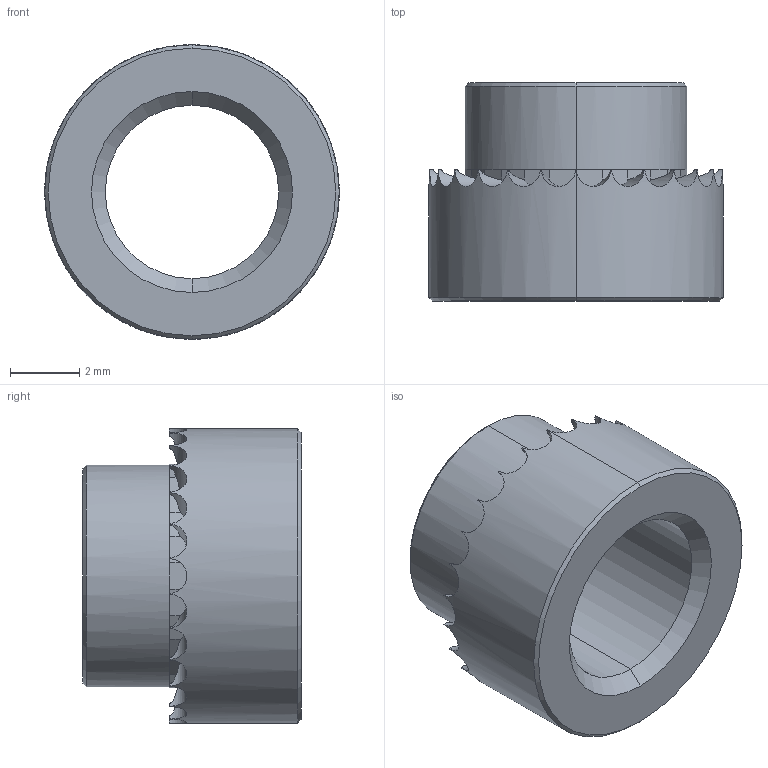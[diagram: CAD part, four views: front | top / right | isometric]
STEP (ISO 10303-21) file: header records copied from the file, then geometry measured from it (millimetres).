
FILE_DESCRIPTION (( 'STEP AP203' ), '1' );
FILE_NAME ('P0829.050-14G-ZP.step', '2019-03-21T22:17:20', ( '' ), ( '' ), 'SwSTEP 2.0', 'SolidWorks 2017', '' );
FILE_SCHEMA (( 'CONFIG_CONTROL_DESIGN' ));
Length unit declared in the file: millimetre
Products named in the file (1): P0829.050-14G-ZP
Bounding box: 8.5 x 6.3 x 8.5 mm (x, y, z)
Volume: 159.3 mm3; surface area: 321.1 mm2
Topology: 1 solids, 1 shells, 120 faces, 294 edges, 176 vertices
Faces by surface type: plane 80, cylinder 32, cone 8
Entity records: 3739 total; most frequent: CARTESIAN_POINT 903, ORIENTED_EDGE 588, DIRECTION 582, EDGE_CURVE 294, AXIS2_PLACEMENT_3D 219, VERTEX_POINT 176, LINE 144, VECTOR 144
